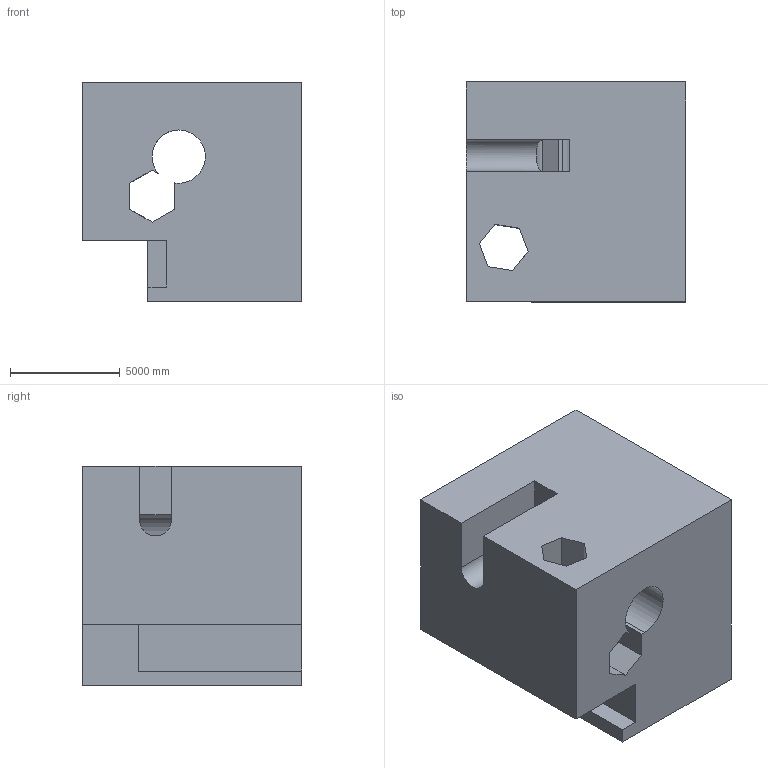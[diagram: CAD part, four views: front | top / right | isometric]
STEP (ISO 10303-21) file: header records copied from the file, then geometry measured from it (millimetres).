
FILE_DESCRIPTION (( 'STEP AP203' ), '1' );
FILE_NAME ('335.STEP', '2022-09-07T12:57:58', ( 'user' ), ( '' ), 'SwSTEP 2.0', 'SolidWorks 2021', '' );
FILE_SCHEMA (( 'CONFIG_CONTROL_DESIGN' ));
Length unit declared in the file: centimetre
Products named in the file (1): 335
Bounding box: 10000 x 10000 x 10000 mm (x, y, z)
Volume: 772207931733.5 mm3; surface area: 762377358.5 mm2
Topology: 1 solids, 1 shells, 38 faces, 123 edges, 82 vertices
Faces by surface type: plane 33, cylinder 5
Entity records: 1549 total; most frequent: CARTESIAN_POINT 362, ORIENTED_EDGE 246, DIRECTION 213, EDGE_CURVE 123, LINE 109, VECTOR 109, VERTEX_POINT 82, AXIS2_PLACEMENT_3D 52
